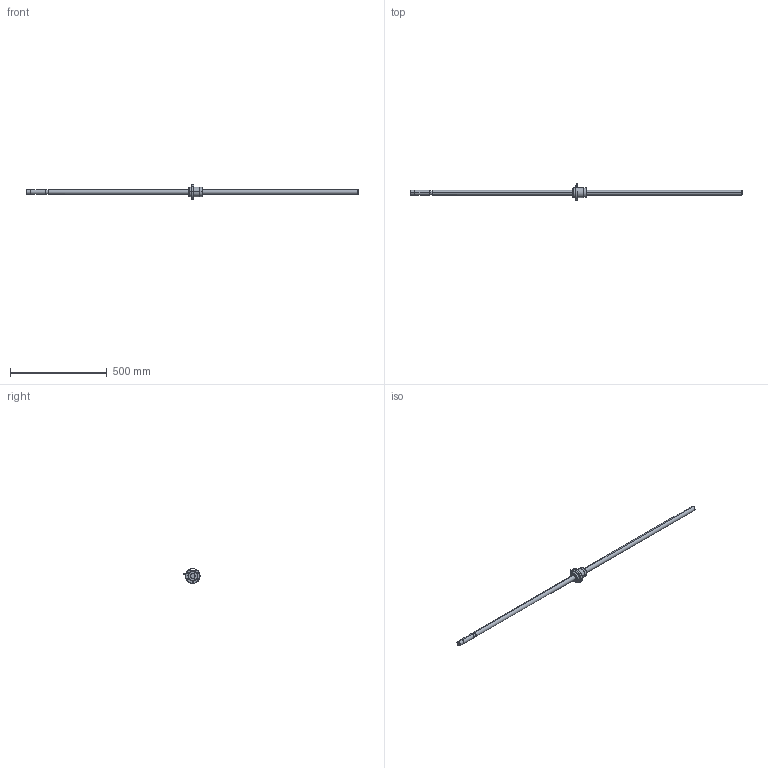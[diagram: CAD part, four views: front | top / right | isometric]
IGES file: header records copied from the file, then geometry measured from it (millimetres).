
Global section: file name: No Iges File Name specified; native system: AutoDesk Inventor R10; preprocessor: AutoDesk Inventor Iges Exporter R10; author: No Author specified; organization: No Organization specified; date: 20101224.134524; units: millimetre
Bounding box: 1715 x 83.6 x 76 mm (x, y, z)
Surface area: 163074.9 mm2 (no closed solid volume)
Topology: 0 solids, 0 shells, 74 faces, 486 edges, 482 vertices
Faces by surface type: bspline 74
